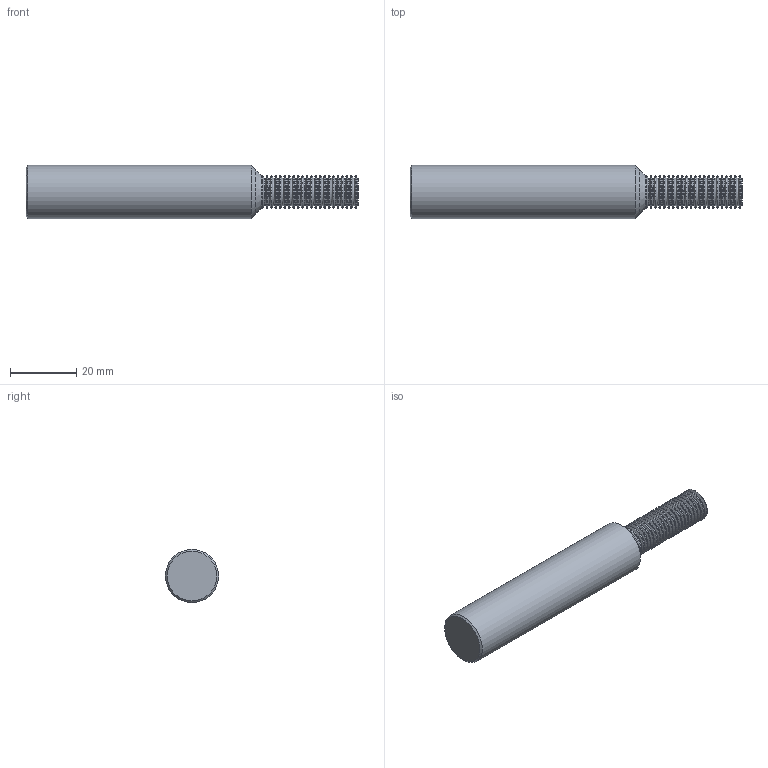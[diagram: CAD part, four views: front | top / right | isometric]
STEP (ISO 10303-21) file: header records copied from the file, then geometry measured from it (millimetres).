
FILE_DESCRIPTION(/* description */ (''),/* implementation_level */ '2;1');
FILE_NAME(/* name */ '00036404-TDM',/* time_stamp */ '2024-02-20T07:41:12+01:00',/* author */ (''),/* organization */ (''),/* preprocessor_version */ 'ST-DEVELOPER v16.5',/* originating_system */ 'HiCAD 2017 2201.0 Build 268',/* authorisation */ '');
FILE_SCHEMA (('AUTOMOTIVE_DESIGN { 1 0 10303 214 1 1 1 1 }'));
Length unit declared in the file: millimetre
Products named in the file (3): Root; ROTATIONSTEIL_1
Assembly tree (2 placements, depth 3):
  Root
    ROTATIONSTEIL_1
      ROTATIONSTEIL_1
Bounding box: 100 x 16 x 16 mm (x, y, z)
Volume: 15896.4 mm3; surface area: 5524.3 mm2
Topology: 2 solids, 2 shells, 95 faces, 187 edges, 96 vertices
Faces by surface type: cone 46, torus 43, plane 4, cylinder 2
Full cylindrical faces by diameter (mm): 9.9 x1, 16 x1
Entity records: 2874 total; most frequent: DIRECTION 384, CARTESIAN_POINT 285, AXIS2_PLACEMENT_3D 192, PRESENTATION_STYLE_ASSIGNMENT 188, COLOUR_RGB 188, DRAUGHTING_PRE_DEFINED_CURVE_FONT 186, CURVE_STYLE 186, OVER_RIDING_STYLED_ITEM 186
